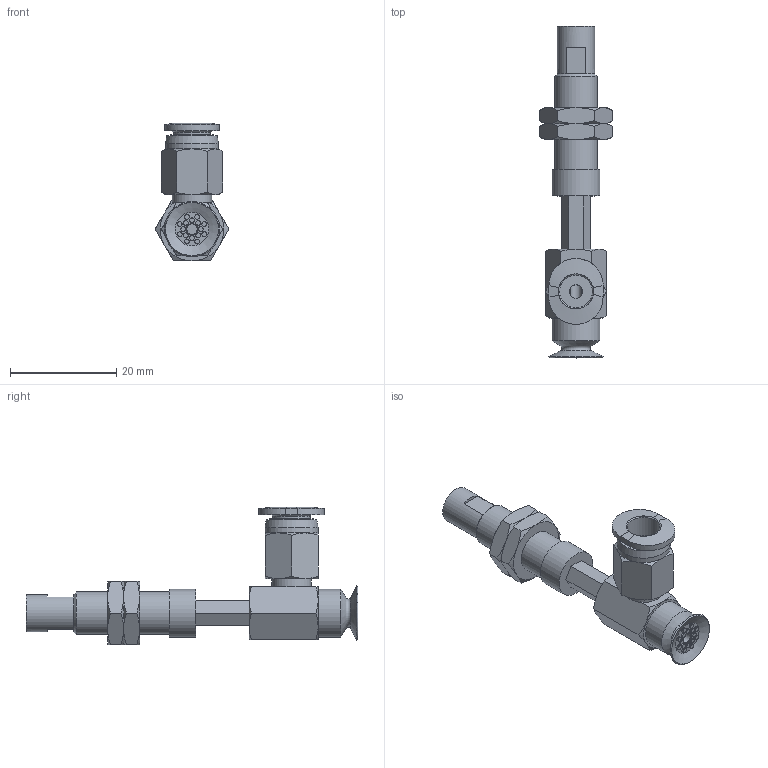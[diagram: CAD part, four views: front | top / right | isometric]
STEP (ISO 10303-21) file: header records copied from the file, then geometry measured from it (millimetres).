
FILE_DESCRIPTION(('STEP AP203'),'1');
FILE_NAME('-O.stp','2025-03-13T02:49:46',(' '),(' '),'Spatial InterOp 3D',' ',' ');
FILE_SCHEMA(('CONFIG_CONTROL_DESIGN'));
Length unit declared in the file: millimetre
Products named in the file (7): BNABPAYH-10A-10-※-O; NAPATH-10A-10--M; NAPATH-10A-10--F; Nut-10A-S; CONNECTOR-10A-10-PA; PC-C_06-M5; BPAG-10A-※
Assembly tree (7 placements, depth 2):
  BNABPAYH-10A-10-※-O
    NAPATH-10A-10--M
    NAPATH-10A-10--F
    Nut-10A-S  x2
    CONNECTOR-10A-10-PA
    PC-C_06-M5
    BPAG-10A-※
Bounding box: 13.86 x 62.5 x 25.98 mm (x, y, z)
Volume: 4304.8 mm3; surface area: 5373 mm2
Topology: 7 solids, 7 shells, 222 faces, 449 edges, 275 vertices
Faces by surface type: plane 96, cone 67, cylinder 40, torus 12, bspline 4, revolution 3
Full cylindrical faces by diameter (mm): 0.9 x16, 2 x2, 4 x4, 4.134 x2, 5 x2, 6 x2, 7 x2, 7.188 x2, 7.4 x1, 8 x1, 8.2 x1, 9 x2, 10 x1
Entity records: 5584 total; most frequent: CARTESIAN_POINT 1478, DIRECTION 785, ORIENTED_EDGE 650, AXIS2_PLACEMENT_3D 346, EDGE_CURVE 325, EDGE_LOOP 308, FACE_OUTER_BOUND 248, VERTEX_POINT 237
